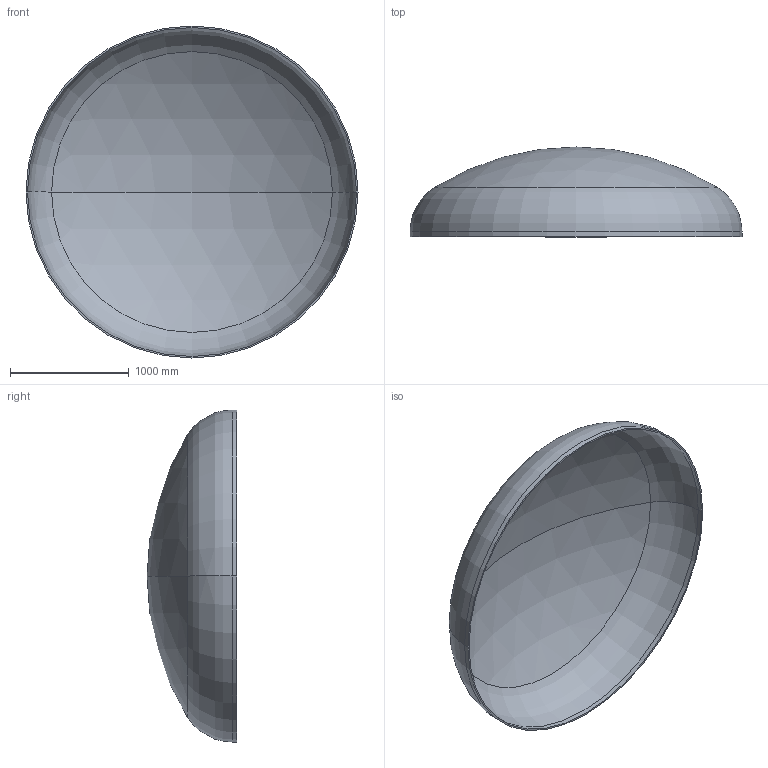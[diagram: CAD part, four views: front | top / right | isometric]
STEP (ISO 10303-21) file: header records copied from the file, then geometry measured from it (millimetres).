
FILE_DESCRIPTION (( 'STEP AP203' ), '1' );
FILE_NAME ('DIN 28013 Korbbogenform_-_Boden DIN 28013 - 2800 x 40 - I - s=13.step', '2016-07-01T16:42:52', ( '' ), ( '' ), 'SwSTEP 2.0', 'SolidWorks 2013', '' );
FILE_SCHEMA (( 'CONFIG_CONTROL_DESIGN' ));
Length unit declared in the file: millimetre
Products named in the file (1): DIN 28013 Korbbogenform_-_Boden DIN 28013 - 2800 x 40 - I - s=13
Bounding box: 2800 x 756.69 x 2800 mm (x, y, z)
Volume: 114684318.7 mm3; surface area: 17757911.3 mm2
Topology: 1 solids, 1 shells, 13 faces, 24 edges, 14 vertices
Faces by surface type: torus 4, cylinder 4, sphere 4, plane 1
Entity records: 407 total; most frequent: DIRECTION 72, CARTESIAN_POINT 52, ORIENTED_EDGE 48, AXIS2_PLACEMENT_3D 34, EDGE_CURVE 24, CIRCLE 20, EDGE_LOOP 14, VERTEX_POINT 14
